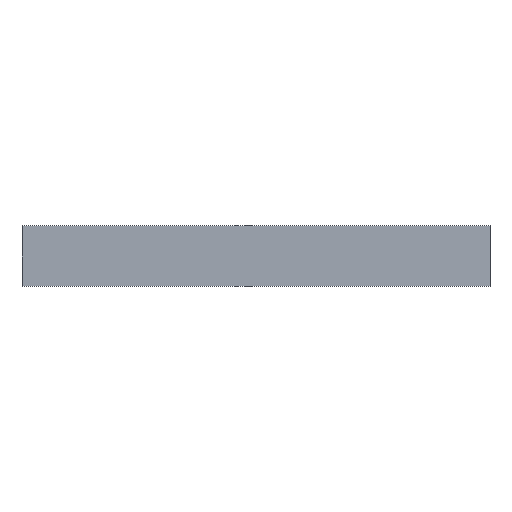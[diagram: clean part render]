
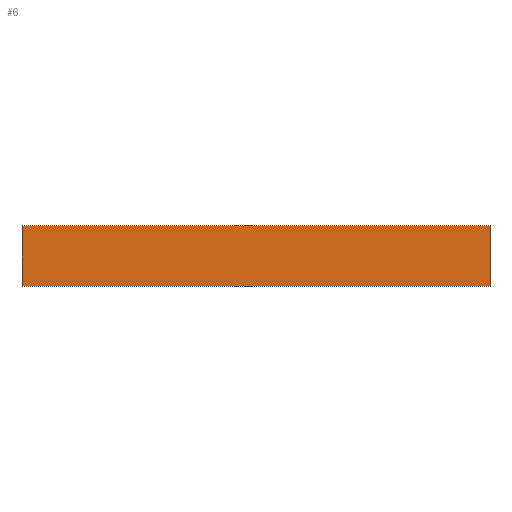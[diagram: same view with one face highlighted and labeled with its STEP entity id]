
A CAD part, top view. The second image highlights one B-rep face of the part: STEP entity #6.
In plain terms, the highlighted planar face has unit normal (0, 0, 1).
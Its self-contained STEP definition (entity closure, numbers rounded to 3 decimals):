
#6 = ADVANCED_FACE ( 'NONE', ( #72 ), #99, .F. ) ;
#15 = VECTOR ( 'NONE', #130, 1000. ) ;
#16 = LINE ( 'NONE', #131, #15 ) ;
#30 = ORIENTED_EDGE ( 'NONE', *, *, #161, .T. ) ;
#35 = ORIENTED_EDGE ( 'NONE', *, *, #182, .T. ) ;
#38 = ORIENTED_EDGE ( 'NONE', *, *, #176, .T. ) ;
#45 = VECTOR ( 'NONE', #139, 1000. ) ;
#52 = LINE ( 'NONE', #145, #45 ) ;
#58 = LINE ( 'NONE', #153, #59 ) ;
#59 = VECTOR ( 'NONE', #152, 1000. ) ;
#62 = VECTOR ( 'NONE', #150, 1000. ) ;
#69 = ORIENTED_EDGE ( 'NONE', *, *, #162, .T. ) ;
#72 = FACE_OUTER_BOUND ( 'NONE', #77, .T. ) ;
#73 = LINE ( 'NONE', #155, #62 ) ;
#77 = EDGE_LOOP ( 'NONE', ( #35, #38, #30, #69 ) ) ;
#86 = DIRECTION ( 'NONE',  ( 0., 0., -1. ) ) ;
#90 = CARTESIAN_POINT ( 'NONE',  ( -232.5, 30., 2. ) ) ;
#93 = DIRECTION ( 'NONE',  ( -1., 0., 0. ) ) ;
#99 = PLANE ( 'NONE',  #171 ) ;
#125 = CARTESIAN_POINT ( 'NONE',  ( 232.5, -30., 2. ) ) ;
#128 = CARTESIAN_POINT ( 'NONE',  ( 232.5, 30., 2. ) ) ;
#130 = DIRECTION ( 'NONE',  ( 0., -1., 0. ) ) ;
#131 = CARTESIAN_POINT ( 'NONE',  ( -232.5, -30., 2. ) ) ;
#132 = CARTESIAN_POINT ( 'NONE',  ( -232.5, -30., 2. ) ) ;
#139 = DIRECTION ( 'NONE',  ( 1., 0., 0. ) ) ;
#140 = CARTESIAN_POINT ( 'NONE',  ( -232.5, 30., 2. ) ) ;
#145 = CARTESIAN_POINT ( 'NONE',  ( -232.5, -30., 2. ) ) ;
#150 = DIRECTION ( 'NONE',  ( -1., 0., 0. ) ) ;
#152 = DIRECTION ( 'NONE',  ( 0., 1., 0. ) ) ;
#153 = CARTESIAN_POINT ( 'NONE',  ( 232.5, -30., 2. ) ) ;
#155 = CARTESIAN_POINT ( 'NONE',  ( -232.5, 30., 2. ) ) ;
#161 = EDGE_CURVE ( 'NONE', #199, #191, #58, .T. ) ;
#162 = EDGE_CURVE ( 'NONE', #191, #194, #73, .T. ) ;
#171 = AXIS2_PLACEMENT_3D ( 'NONE', #90, #86, #93 ) ;
#176 = EDGE_CURVE ( 'NONE', #190, #199, #52, .T. ) ;
#182 = EDGE_CURVE ( 'NONE', #194, #190, #16, .T. ) ;
#190 = VERTEX_POINT ( 'NONE', #132 ) ;
#191 = VERTEX_POINT ( 'NONE', #128 ) ;
#194 = VERTEX_POINT ( 'NONE', #140 ) ;
#199 = VERTEX_POINT ( 'NONE', #125 ) ;
